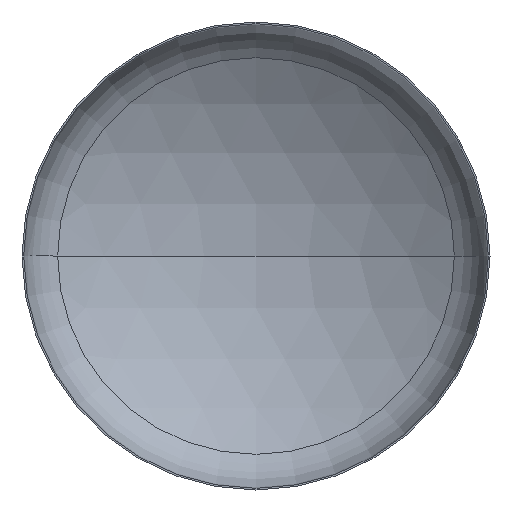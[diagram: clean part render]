
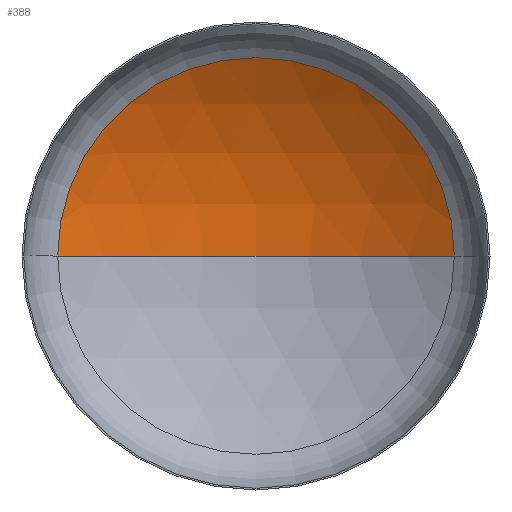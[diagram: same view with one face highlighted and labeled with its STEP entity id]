
A CAD part, front view. The second image highlights one B-rep face of the part: STEP entity #388.
In plain terms, the highlighted spherical face has radius 3600 mm.
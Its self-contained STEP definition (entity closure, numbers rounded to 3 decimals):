
#8 = VERTEX_POINT ( 'NONE', #293 ) ;
#13 = DIRECTION ( 'NONE',  ( 0., -1., 0. ) ) ;
#16 = EDGE_LOOP ( 'NONE', ( #88, #78, #29 ) ) ;
#19 = CARTESIAN_POINT ( 'NONE',  ( 0., 644.456, 0. ) ) ;
#29 = ORIENTED_EDGE ( 'NONE', *, *, #165, .T. ) ;
#68 = AXIS2_PLACEMENT_3D ( 'NONE', #202, #216, #208 ) ;
#70 = AXIS2_PLACEMENT_3D ( 'NONE', #330, #356, #204 ) ;
#74 = AXIS2_PLACEMENT_3D ( 'NONE', #19, #13, #379 ) ;
#78 = ORIENTED_EDGE ( 'NONE', *, *, #167, .T. ) ;
#88 = ORIENTED_EDGE ( 'NONE', *, *, #170, .F. ) ;
#91 = VERTEX_POINT ( 'NONE', #223 ) ;
#120 = VERTEX_POINT ( 'NONE', #236 ) ;
#151 = CIRCLE ( 'NONE', #70, 3600. ) ;
#165 = EDGE_CURVE ( 'NONE', #91, #120, #215, .T. ) ;
#167 = EDGE_CURVE ( 'NONE', #8, #91, #151, .T. ) ;
#170 = EDGE_CURVE ( 'NONE', #8, #120, #340, .T. ) ;
#180 = FACE_OUTER_BOUND ( 'NONE', #16, .T. ) ;
#192 = DIRECTION ( 'NONE',  ( -1., 0., 0. ) ) ;
#202 = CARTESIAN_POINT ( 'NONE',  ( 0., -2408.839, 0. ) ) ;
#204 = DIRECTION ( 'NONE',  ( -1., 0., 0. ) ) ;
#208 = DIRECTION ( 'NONE',  ( 1., 0., 0. ) ) ;
#215 = CIRCLE ( 'NONE', #74, 1907.194 ) ;
#216 = DIRECTION ( 'NONE',  ( 0., 0., 1. ) ) ;
#223 = CARTESIAN_POINT ( 'NONE',  ( 1907.194, 644.456, 0. ) ) ;
#226 = SPHERICAL_SURFACE ( 'NONE', #260, 3600. ) ;
#236 = CARTESIAN_POINT ( 'NONE',  ( -1907.194, 644.456, 0. ) ) ;
#237 = CARTESIAN_POINT ( 'NONE',  ( 0., -2408.839, 0. ) ) ;
#260 = AXIS2_PLACEMENT_3D ( 'NONE', #237, #262, #192 ) ;
#262 = DIRECTION ( 'NONE',  ( 0., 0., -1. ) ) ;
#293 = CARTESIAN_POINT ( 'NONE',  ( 0., 1191.161, 0. ) ) ;
#330 = CARTESIAN_POINT ( 'NONE',  ( 0., -2408.839, 0. ) ) ;
#340 = CIRCLE ( 'NONE', #68, 3600. ) ;
#356 = DIRECTION ( 'NONE',  ( 0., 0., -1. ) ) ;
#379 = DIRECTION ( 'NONE',  ( 1., 0., 0. ) ) ;
#388 = ADVANCED_FACE ( 'NONE', ( #180 ), #226, .F. ) ;
